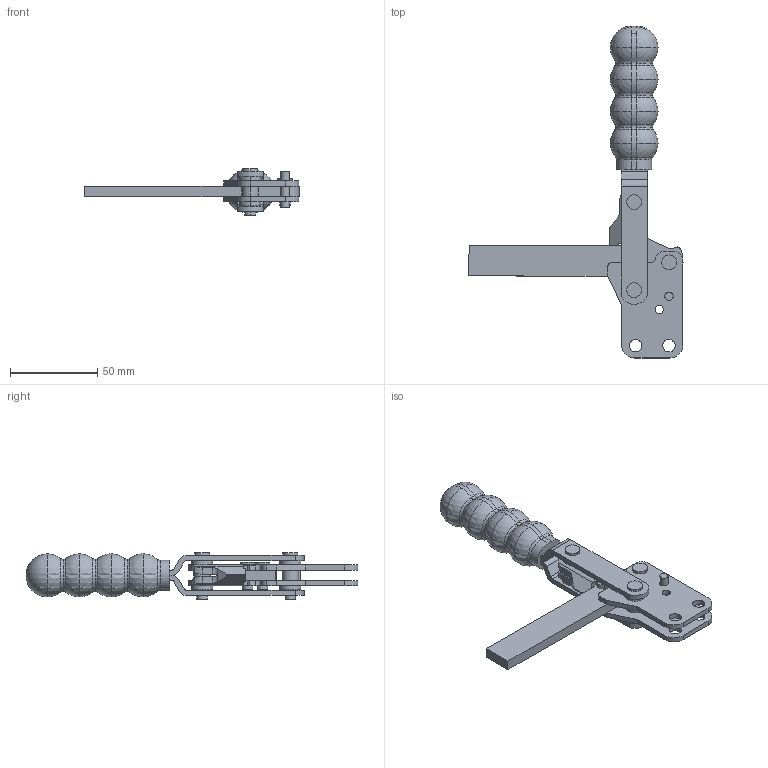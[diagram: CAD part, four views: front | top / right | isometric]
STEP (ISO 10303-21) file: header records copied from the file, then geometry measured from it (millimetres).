
FILE_DESCRIPTION( ( '' ), '1' );
FILE_NAME( '//partserver002.servicenet/client_exchange/iodir/jobs/output/wkb5782539_no3/STEP/v250_1al_2_14b.stp', '2006-11-29T10:31:09', ( '' ), ( '' ), ' ', ' ', ' ' );
FILE_SCHEMA( ( 'automotive_design' ) );
Length unit declared in the file: millimetre
Products named in the file (5): 1; 2; 3; 4; 5
Bounding box: 122.52 x 189.97 x 26.7 mm (x, y, z)
Volume: 74174.7 mm3; surface area: 40215.4 mm2
Topology: 5 solids, 5 shells, 254 faces, 671 edges, 414 vertices
Faces by surface type: cylinder 142, plane 82, sphere 16, torus 14
Entity records: 15410 total; most frequent: CARTESIAN_POINT 1550, DIRECTION 1477, STYLED_ITEM 1312, PRESENTATION_STYLE_ASSIGNMENT 1312, COLOUR_RGB 1312, ORIENTED_EDGE 1278, EDGE_CURVE 639, CURVE_STYLE 639
